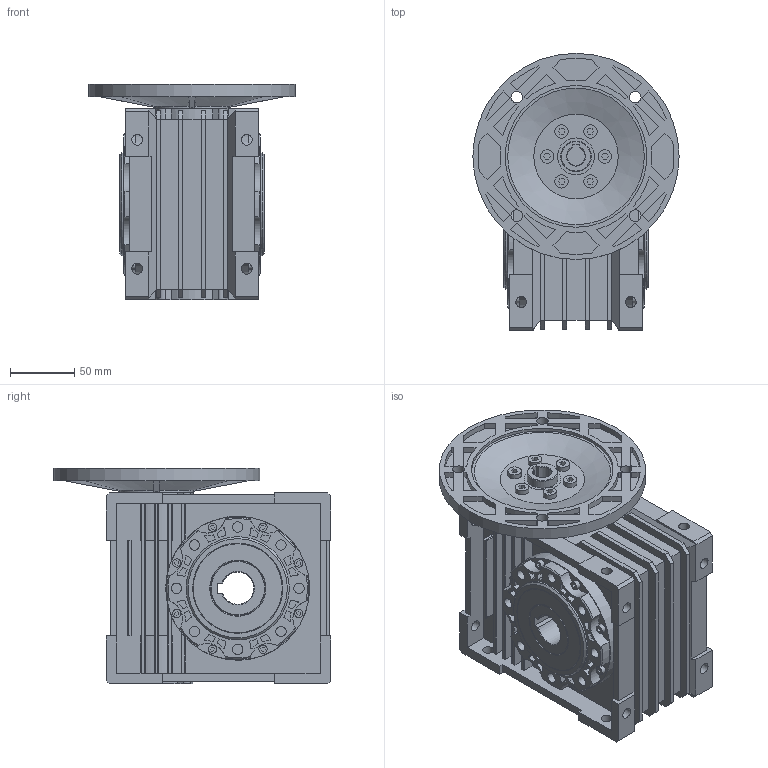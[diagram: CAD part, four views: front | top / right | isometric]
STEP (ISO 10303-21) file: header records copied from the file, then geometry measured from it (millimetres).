
FILE_DESCRIPTION(/* description */ (''),/* implementation_level */ '2;1');
FILE_NAME(/* name */ 'Z:\동력 3D 파일\PCMRV063_71B5_3D.stp',/* time_stamp */ '2021-12-01T16:43:20+09:00',/* author */ ('jaebok'),/* organization */ (''),/* preprocessor_version */ 'ST-DEVELOPER v18.1',/* originating_system */ 'Autodesk Inventor 2022',/* authorisation */ '');
FILE_SCHEMA (('AUTOMOTIVE_DESIGN { 1 0 10303 214 3 1 1 }'));
Length unit declared in the file: millimetre
Products named in the file (1): 부품47
Bounding box: 160 x 215 x 167 mm (x, y, z)
Volume: 2174694.5 mm3; surface area: 256927.8 mm2
Topology: 1 solids, 2 shells, 1001 faces, 2561 edges, 1701 vertices
Faces by surface type: plane 645, cylinder 323, cone 33
Full cylindrical faces by diameter (mm): 3.698 x8, 6.5 x16, 8 x16, 8.5 x16, 9 x4, 10.448 x6, 23.8 x1, 28.56 x1, 48.3 x2, 49.3 x2, 56.5 x1, 70 x2, 80 x2, 110 x1, 111.6 x2, 160 x1
Entity records: 31658 total; most frequent: CARTESIAN_POINT 5540, DIRECTION 5217, ORIENTED_EDGE 5122, EDGE_CURVE 2561, LINE 1793, VECTOR 1793, AXIS2_PLACEMENT_3D 1712, VERTEX_POINT 1701
